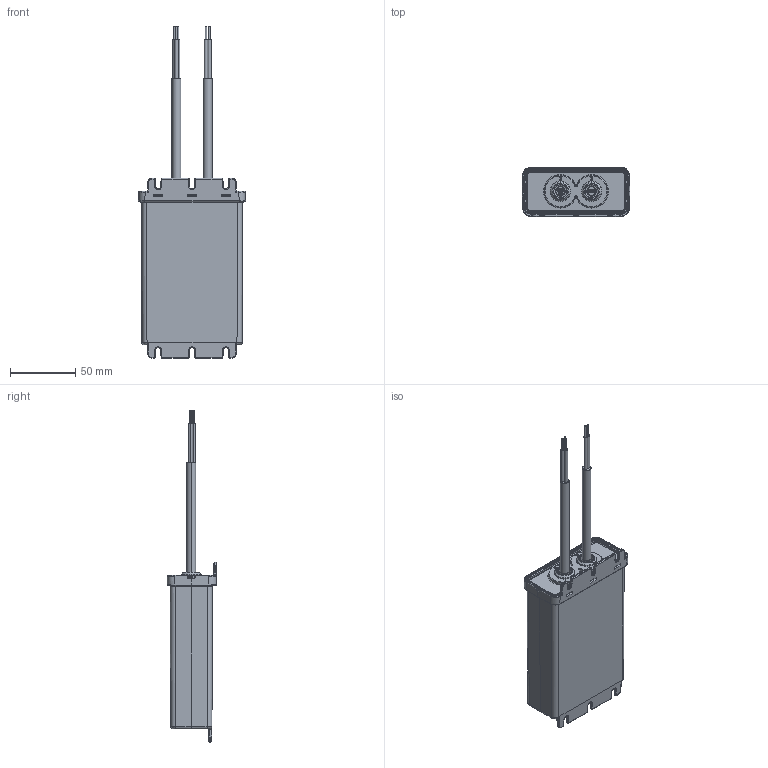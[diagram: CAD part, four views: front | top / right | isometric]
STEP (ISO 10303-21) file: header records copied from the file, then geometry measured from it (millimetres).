
FILE_DESCRIPTION (( 'STEP AP214' ), '1' );
FILE_NAME ('NFC 60W_20170927.STEP', '2017-09-27T02:30:51', ( '' ), ( '' ), 'SwSTEP 2.0', 'SolidWorks 2015', '' );
FILE_SCHEMA (( 'AUTOMOTIVE_DESIGN' ));
Length unit declared in the file: millimetre
Products named in the file (10): fish paper; Silicon seal_V07; Housing Cover_V06_b; TIE_Standard; 2c1_cable_ass; 3c1qu_asm; Housing Base_V06; NFC 60W_20170927; Insulation sleeing; 1Q1-3553349-EN-01
Assembly tree (12 placements, depth 2):
  NFC 60W_20170927
    Housing Base_V06
    3c1qu_asm
    2c1_cable_ass
    TIE_Standard  x2
    Housing Cover_V06_b
    Silicon seal_V07
    fish paper
    1Q1-3553349-EN-01  x2
    Insulation sleeing  x2
Bounding box: 82.37 x 37.98 x 255.15 mm (x, y, z)
Volume: 69409.9 mm3; surface area: 94520.5 mm2
Topology: 27 solids, 27 shells, 1274 faces, 2941 edges, 1718 vertices
Faces by surface type: cylinder 467, plane 339, bspline 228, torus 130, sphere 66, cone 44
Entity records: 43156 total; most frequent: CARTESIAN_POINT 17634, ORIENTED_EDGE 5406, DIRECTION 5024, EDGE_CURVE 2703, AXIS2_PLACEMENT_3D 1908, VERTEX_POINT 1588, EDGE_LOOP 1245, VECTOR 1208
